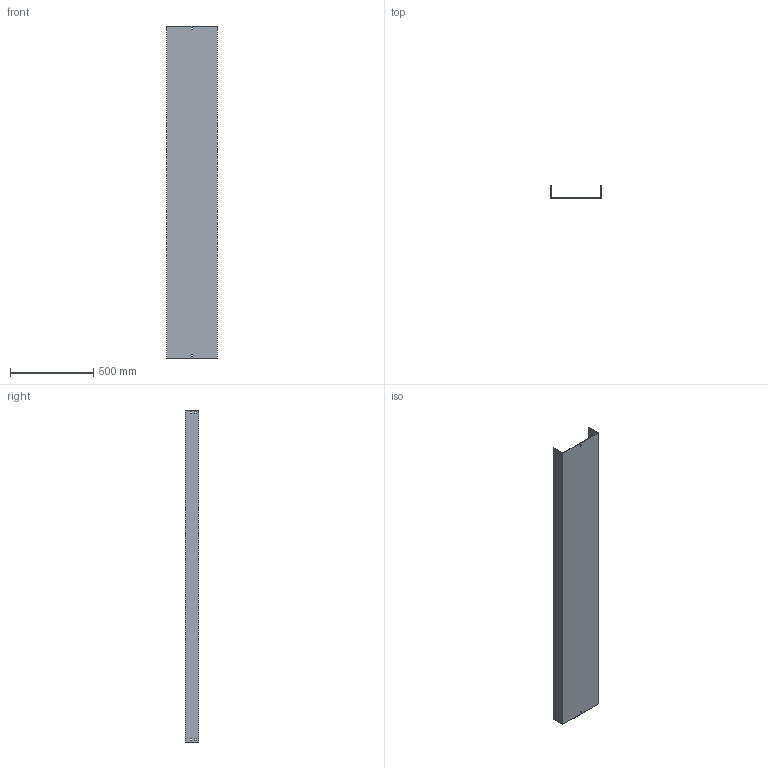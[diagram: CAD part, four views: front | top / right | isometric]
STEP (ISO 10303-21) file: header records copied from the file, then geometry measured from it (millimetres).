
FILE_DESCRIPTION (( 'STEP AP214' ), '1' );
FILE_NAME ('03F2C300.step', '2025-02-21T13:31:53', ( '' ), ( '' ), 'SwSTEP 2.0', 'SolidWorks 2023', '' );
FILE_SCHEMA (( 'AUTOMOTIVE_DESIGN' ));
Length unit declared in the file: millimetre
Products named in the file (1): 03F2C300
Bounding box: 304 x 79 x 2000 mm (x, y, z)
Volume: 3182630.5 mm3; surface area: 1837000 mm2
Topology: 1 solids, 1 shells, 50 faces, 144 edges, 96 vertices
Faces by surface type: plane 50
Entity records: 1671 total; most frequent: CARTESIAN_POINT 291, ORIENTED_EDGE 288, DIRECTION 246, VECTOR 144, EDGE_CURVE 144, LINE 144, VERTEX_POINT 96, EDGE_LOOP 70
